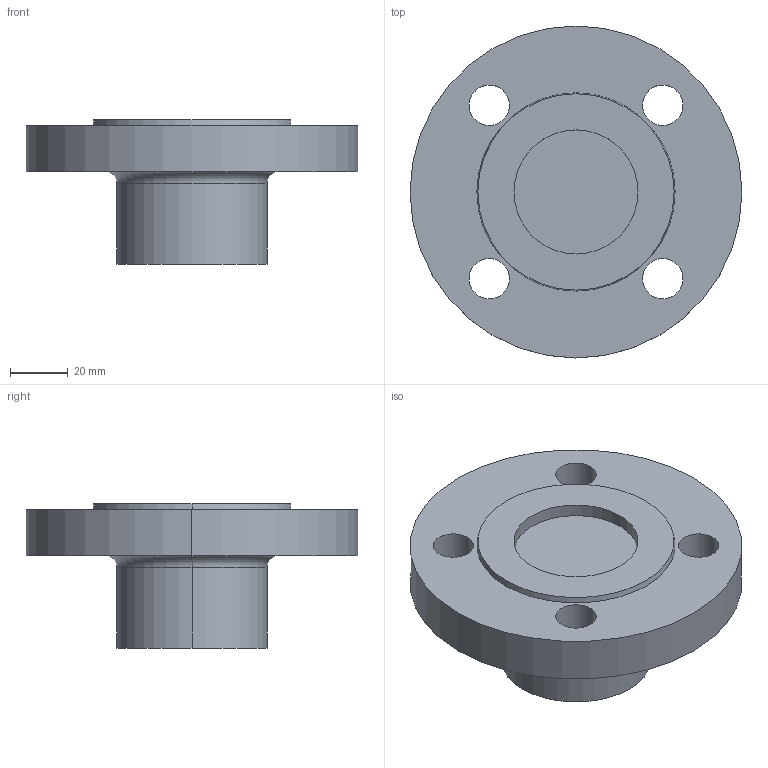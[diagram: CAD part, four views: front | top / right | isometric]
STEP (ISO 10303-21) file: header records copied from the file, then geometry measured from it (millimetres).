
FILE_DESCRIPTION (( 'STEP AP214' ), '1' );
FILE_NAME ('PN40 DN25 Type 21(i) - Type G Face.STEP', '2018-12-29T20:17:17', ( '' ), ( '' ), 'SwSTEP 2.0', 'SolidWorks 2019', '' );
FILE_SCHEMA (( 'AUTOMOTIVE_DESIGN' ));
Length unit declared in the file: millimetre
Products named in the file (1): PN40 DN25 Type 21(i) - Type G Face
Bounding box: 115 x 115 x 50 mm (x, y, z)
Volume: 225681.4 mm3; surface area: 34060.2 mm2
Topology: 1 solids, 1 shells, 23 faces, 52 edges, 34 vertices
Faces by surface type: cylinder 14, plane 5, torus 2, cone 2
Entity records: 716 total; most frequent: DIRECTION 136, CARTESIAN_POINT 110, ORIENTED_EDGE 104, AXIS2_PLACEMENT_3D 60, EDGE_CURVE 52, CIRCLE 36, VERTEX_POINT 34, EDGE_LOOP 34
